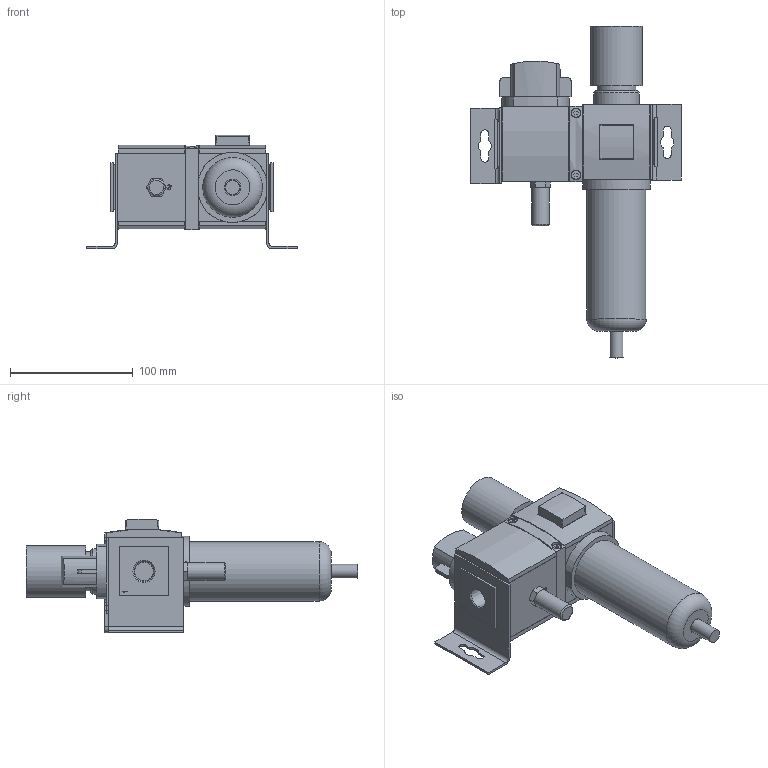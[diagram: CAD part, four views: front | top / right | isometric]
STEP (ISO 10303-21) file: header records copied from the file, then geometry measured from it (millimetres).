
FILE_DESCRIPTION( ( 'STEP AP214' ), '1' );
FILE_NAME( 'p:/temp/worker_127/temp/exporttempdir_3952_275_gaSe0/format_0/12032020-150241_gen_13823.stp', '2020-02-12T14:03:42', ( '' ), ( '' ), ' ', 'PARTsolutions', ' ' );
FILE_SCHEMA( ( 'AUTOMOTIVE_DESIGN { 1 0 10303 214 1 1 1 1 }' ) );
Length unit declared in the file: millimetre
Products named in the file (16): 12032020-150241_gen_13823; _433433014-F--0-A00129L; _433441-002-SV-0; _437742-001-100; _M2MN_652; _G652ASLA0A00A00_LS; _433073-014-F-KA0010AD0L; _433894-001; _440508-001-STANDARD; _433441-001-R-H; _438047-009; _433441-001-R-0; _440511-008-P; _501862-002-C; _8652ASLB0L00A00_LS; _8652ASLB0L00A00_RS
Assembly tree (16 placements, depth 2):
  12032020-150241_gen_13823
    _433433014-F--0-A00129L
    _433441-002-SV-0  x2
    _437742-001-100
    _M2MN_652
    _G652ASLA0A00A00_LS
    _433073-014-F-KA0010AD0L
    _433894-001
    _440508-001-STANDARD
    _433441-001-R-H
    _438047-009
    _433441-001-R-0
    _440511-008-P
    _501862-002-C
    _8652ASLB0L00A00_LS
    _8652ASLB0L00A00_RS
Bounding box: 171.3 x 270.2 x 92.51 mm (x, y, z)
Volume: 895888.2 mm3; surface area: 170110.1 mm2
Topology: 16 solids, 16 shells, 557 faces, 1349 edges, 875 vertices
Faces by surface type: plane 444, cylinder 70, cone 37, torus 6
Full cylindrical faces by diameter (mm): 2.8 x2, 5.6 x4, 6.3 x4, 7 x2, 7.8 x2, 8.25 x4, 10 x4, 11.3 x1, 13.5 x1, 14.224 x1, 15.1 x1, 31.6 x1, 37 x1, 41.845 x1, 48.5 x1
Entity records: 20590 total; most frequent: CARTESIAN_POINT 3123, DIRECTION 2563, ORIENTED_EDGE 2552, EDGE_CURVE 1276, LINE 1047, VECTOR 1047, VERTEX_POINT 865, AXIS2_PLACEMENT_3D 758
